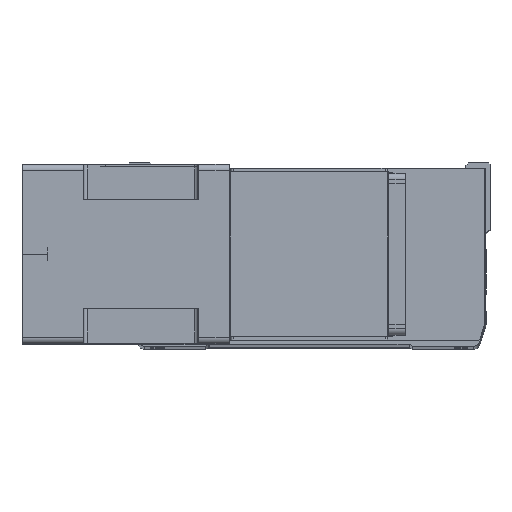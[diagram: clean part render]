
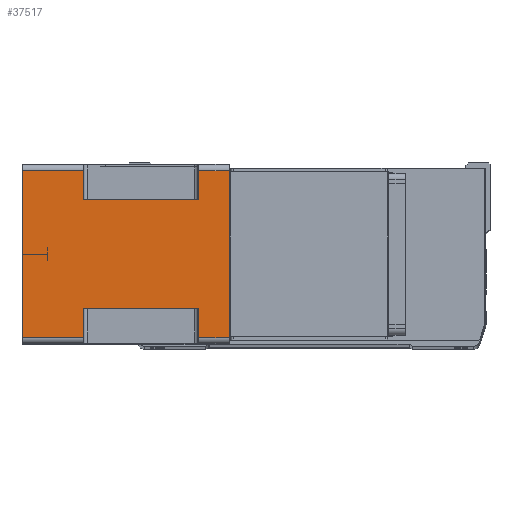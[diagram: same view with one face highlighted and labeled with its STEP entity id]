
A CAD part, top view. The second image highlights one B-rep face of the part: STEP entity #37517.
In plain terms, the highlighted planar face has unit normal (0, 0, 1) as drawn and (-1, 0, 0) by its records, which use the part's own axes.
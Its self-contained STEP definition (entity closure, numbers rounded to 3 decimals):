
#413 = CARTESIAN_POINT ( 'NONE',  ( -71., 43., -115.5 ) ) ;
#577 = LINE ( 'NONE', #32751, #34883 ) ;
#947 = LINE ( 'NONE', #33090, #6791 ) ;
#961 = ORIENTED_EDGE ( 'NONE', *, *, #4333, .F. ) ;
#1439 = VECTOR ( 'NONE', #6477, 1000. ) ;
#1774 = DIRECTION ( 'NONE',  ( 0., 0., -1. ) ) ;
#1829 = VECTOR ( 'NONE', #27916, 1000. ) ;
#2977 = LINE ( 'NONE', #13291, #26035 ) ;
#3471 = VERTEX_POINT ( 'NONE', #7883 ) ;
#4333 = EDGE_CURVE ( 'NONE', #20398, #29616, #14931, .T. ) ;
#4386 = PLANE ( 'NONE',  #4953 ) ;
#4905 = EDGE_CURVE ( 'NONE', #15007, #29616, #23452, .T. ) ;
#4953 = AXIS2_PLACEMENT_3D ( 'NONE', #38143, #24759, #34800 ) ;
#5051 = LINE ( 'NONE', #10798, #1829 ) ;
#6477 = DIRECTION ( 'NONE',  ( 0., -1., 0. ) ) ;
#6517 = DIRECTION ( 'NONE',  ( 0., -1., 0. ) ) ;
#6791 = VECTOR ( 'NONE', #12257, 1000. ) ;
#7177 = CARTESIAN_POINT ( 'NONE',  ( -71., -43., -24.5 ) ) ;
#7317 = LINE ( 'NONE', #9935, #1439 ) ;
#7883 = CARTESIAN_POINT ( 'NONE',  ( -71., 43., -24.5 ) ) ;
#8965 = CARTESIAN_POINT ( 'NONE',  ( -71., -43., -164. ) ) ;
#9279 = CARTESIAN_POINT ( 'NONE',  ( -71., 66., -115.5 ) ) ;
#9564 = DIRECTION ( 'NONE',  ( 0., 0., 1. ) ) ;
#9935 = CARTESIAN_POINT ( 'NONE',  ( -71., -66., -164. ) ) ;
#10637 = FACE_OUTER_BOUND ( 'NONE', #24994, .T. ) ;
#10783 = DIRECTION ( 'NONE',  ( 0., 1., 0. ) ) ;
#10798 = CARTESIAN_POINT ( 'NONE',  ( -71., -66., -24.5 ) ) ;
#11106 = LINE ( 'NONE', #33372, #39063 ) ;
#11877 = ORIENTED_EDGE ( 'NONE', *, *, #12523, .T. ) ;
#12257 = DIRECTION ( 'NONE',  ( 0., -1., 0. ) ) ;
#12523 = EDGE_CURVE ( 'NONE', #15296, #16117, #2977, .T. ) ;
#12845 = ORIENTED_EDGE ( 'NONE', *, *, #33534, .F. ) ;
#13115 = ORIENTED_EDGE ( 'NONE', *, *, #25899, .T. ) ;
#13291 = CARTESIAN_POINT ( 'NONE',  ( -71., -66., -115.5 ) ) ;
#13702 = VERTEX_POINT ( 'NONE', #35746 ) ;
#14483 = EDGE_CURVE ( 'NONE', #28717, #17784, #577, .T. ) ;
#14931 = LINE ( 'NONE', #8965, #23569 ) ;
#15007 = VERTEX_POINT ( 'NONE', #18558 ) ;
#15296 = VERTEX_POINT ( 'NONE', #413 ) ;
#16117 = VERTEX_POINT ( 'NONE', #9279 ) ;
#17681 = CARTESIAN_POINT ( 'NONE',  ( -71., -66., -164. ) ) ;
#17784 = VERTEX_POINT ( 'NONE', #35707 ) ;
#18558 = CARTESIAN_POINT ( 'NONE',  ( -71., -66., -115.5 ) ) ;
#18818 = ORIENTED_EDGE ( 'NONE', *, *, #37509, .T. ) ;
#19970 = CARTESIAN_POINT ( 'NONE',  ( -71., -66., 0. ) ) ;
#20398 = VERTEX_POINT ( 'NONE', #7177 ) ;
#20418 = EDGE_CURVE ( 'NONE', #20398, #39423, #5051, .T. ) ;
#21259 = ORIENTED_EDGE ( 'NONE', *, *, #20418, .T. ) ;
#22265 = VECTOR ( 'NONE', #38293, 1000. ) ;
#22864 = CARTESIAN_POINT ( 'NONE',  ( -71., -66., -24.5 ) ) ;
#23452 = LINE ( 'NONE', #41557, #40110 ) ;
#23508 = ORIENTED_EDGE ( 'NONE', *, *, #28114, .T. ) ;
#23569 = VECTOR ( 'NONE', #1774, 1000. ) ;
#24759 = DIRECTION ( 'NONE',  ( -1., 0., 0. ) ) ;
#24994 = EDGE_LOOP ( 'NONE', ( #27696, #25066, #961, #21259, #18818, #32617, #43353, #23508, #26617, #11877, #12845, #13115 ) ) ;
#25045 = LINE ( 'NONE', #19970, #29916 ) ;
#25066 = ORIENTED_EDGE ( 'NONE', *, *, #4905, .T. ) ;
#25317 = CARTESIAN_POINT ( 'NONE',  ( -71., -66., 0. ) ) ;
#25899 = EDGE_CURVE ( 'NONE', #13702, #31938, #7317, .T. ) ;
#26035 = VECTOR ( 'NONE', #37131, 1000. ) ;
#26617 = ORIENTED_EDGE ( 'NONE', *, *, #37822, .F. ) ;
#26930 = VECTOR ( 'NONE', #9564, 1000. ) ;
#27696 = ORIENTED_EDGE ( 'NONE', *, *, #38444, .T. ) ;
#27916 = DIRECTION ( 'NONE',  ( 0., -1., 0. ) ) ;
#28114 = EDGE_CURVE ( 'NONE', #28717, #3471, #947, .T. ) ;
#28333 = EDGE_CURVE ( 'NONE', #17784, #31994, #25045, .T. ) ;
#28374 = CARTESIAN_POINT ( 'NONE',  ( -71., -66., -164. ) ) ;
#28717 = VERTEX_POINT ( 'NONE', #29490 ) ;
#29490 = CARTESIAN_POINT ( 'NONE',  ( -71., 66., -24.5 ) ) ;
#29616 = VERTEX_POINT ( 'NONE', #30611 ) ;
#29916 = VECTOR ( 'NONE', #6517, 1000. ) ;
#30611 = CARTESIAN_POINT ( 'NONE',  ( -71., -43., -115.5 ) ) ;
#31494 = LINE ( 'NONE', #41898, #22265 ) ;
#31567 = DIRECTION ( 'NONE',  ( 0., 0., 1. ) ) ;
#31938 = VERTEX_POINT ( 'NONE', #28374 ) ;
#31994 = VERTEX_POINT ( 'NONE', #25317 ) ;
#32617 = ORIENTED_EDGE ( 'NONE', *, *, #28333, .F. ) ;
#32751 = CARTESIAN_POINT ( 'NONE',  ( -71., 66., -164. ) ) ;
#33090 = CARTESIAN_POINT ( 'NONE',  ( -71., 43., -24.5 ) ) ;
#33372 = CARTESIAN_POINT ( 'NONE',  ( -71., 43., -164. ) ) ;
#33534 = EDGE_CURVE ( 'NONE', #13702, #16117, #34978, .T. ) ;
#33710 = VECTOR ( 'NONE', #31567, 1000. ) ;
#34800 = DIRECTION ( 'NONE',  ( 0., -1., 0. ) ) ;
#34883 = VECTOR ( 'NONE', #36344, 1000. ) ;
#34978 = LINE ( 'NONE', #43960, #26930 ) ;
#35707 = CARTESIAN_POINT ( 'NONE',  ( -71., 66., 0. ) ) ;
#35746 = CARTESIAN_POINT ( 'NONE',  ( -71., 66., -164. ) ) ;
#36344 = DIRECTION ( 'NONE',  ( 0., 0., 1. ) ) ;
#37131 = DIRECTION ( 'NONE',  ( 0., 1., 0. ) ) ;
#37509 = EDGE_CURVE ( 'NONE', #39423, #31994, #40755, .T. ) ;
#37517 = ADVANCED_FACE ( 'NONE', ( #10637 ), #4386, .T. ) ;
#37822 = EDGE_CURVE ( 'NONE', #15296, #3471, #11106, .T. ) ;
#38143 = CARTESIAN_POINT ( 'NONE',  ( -71., -66., -164. ) ) ;
#38293 = DIRECTION ( 'NONE',  ( 0., 0., 1. ) ) ;
#38444 = EDGE_CURVE ( 'NONE', #31938, #15007, #31494, .T. ) ;
#39063 = VECTOR ( 'NONE', #43462, 1000. ) ;
#39423 = VERTEX_POINT ( 'NONE', #22864 ) ;
#40110 = VECTOR ( 'NONE', #10783, 1000. ) ;
#40755 = LINE ( 'NONE', #17681, #33710 ) ;
#41557 = CARTESIAN_POINT ( 'NONE',  ( -71., -43., -115.5 ) ) ;
#41898 = CARTESIAN_POINT ( 'NONE',  ( -71., -66., -164. ) ) ;
#43353 = ORIENTED_EDGE ( 'NONE', *, *, #14483, .F. ) ;
#43462 = DIRECTION ( 'NONE',  ( 0., 0., 1. ) ) ;
#43960 = CARTESIAN_POINT ( 'NONE',  ( -71., 66., -164. ) ) ;
